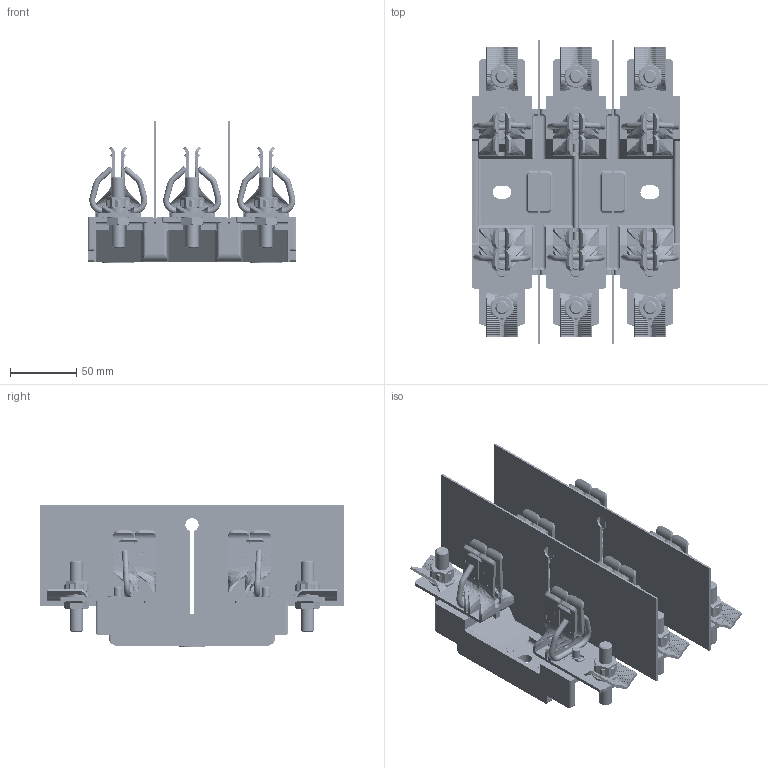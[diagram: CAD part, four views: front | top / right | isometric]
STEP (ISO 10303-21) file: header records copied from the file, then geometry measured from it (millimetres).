
FILE_DESCRIPTION (( 'STEP AP203' ), '1' );
FILE_NAME ('pojistkovy_spodek_S3PB1_SS.STEP', '2022-10-11T07:59:56', ( '' ), ( '' ), 'SwSTEP 2.0', 'SolidWorks 2015', '' );
FILE_SCHEMA (( 'CONFIG_CONTROL_DESIGN' ));
Length unit declared in the file: millimetre
Products named in the file (19): Podlozka_CSN_021702_10_5_3112102025_-_0; kontakt_561130_-_0_Y01-s; Sroub_ISO_4017_M10x30_NA009944_-_0; kontakt_561144_-_0_Z00-s; kontakt_907631_-_0_Z00-s; MATICE_076125_i_0_Z04; 561129_Z00-s; Sroub_ISO_1207_M6x16_3092310407_-_0; pojistkovy_spodek_S3PB1_SS; Matice_ISO4032_M10_3111200060_-_0; zakladna_523135_-_0_Z00; Podlozka_CSN_021740_10_3112140112_-_0; vlozka_530976_c_0_Z01; vlozka_530976_c_0_Z00; 476007_Y00; kontakt_561130_-_0_Y05-s; Podlozka_CSN_021702_6_4_3112102021_-_0; 561129_Z01-s; potisk_984096_-_0_Z00
Assembly tree (79 placements, depth 3):
  pojistkovy_spodek_S3PB1_SS
    zakladna_523135_-_0_Z00
    561129_Z00-s  x9
    Podlozka_CSN_021702_6_4_3112102021_-_0  x6
    Sroub_ISO_1207_M6x16_3092310407_-_0  x6
    476007_Y00  x6
    vlozka_530976_c_0_Z00  x2
    potisk_984096_-_0_Z00
    Sroub_ISO_4017_M10x30_NA009944_-_0  x12
    Podlozka_CSN_021702_10_5_3112102025_-_0  x6
    Podlozka_CSN_021740_10_3112140112_-_0  x6
    Matice_ISO4032_M10_3111200060_-_0  x6
    kontakt_561144_-_0_Z00-s  x6
    kontakt_907631_-_0_Z00-s  x6
      MATICE_076125_i_0_Z04
      kontakt_561130_-_0_Y01-s
      561129_Z01-s
      kontakt_561130_-_0_Y05-s
    vlozka_530976_c_0_Z01  x2
Bounding box: 158 x 230 x 107.5 mm (x, y, z)
Volume: 618152.3 mm3; surface area: 568752.2 mm2
Topology: 126 solids, 126 shells, 9652 faces, 23284 edges, 14412 vertices
Faces by surface type: plane 4826, cylinder 2706, cone 972, bspline 782, torus 274, sphere 92
Entity records: 101732 total; most frequent: CARTESIAN_POINT 37932, ORIENTED_EDGE 13054, DIRECTION 11382, EDGE_CURVE 6527, VERTEX_POINT 4147, LINE 4030, VECTOR 4030, AXIS2_PLACEMENT_3D 3676
